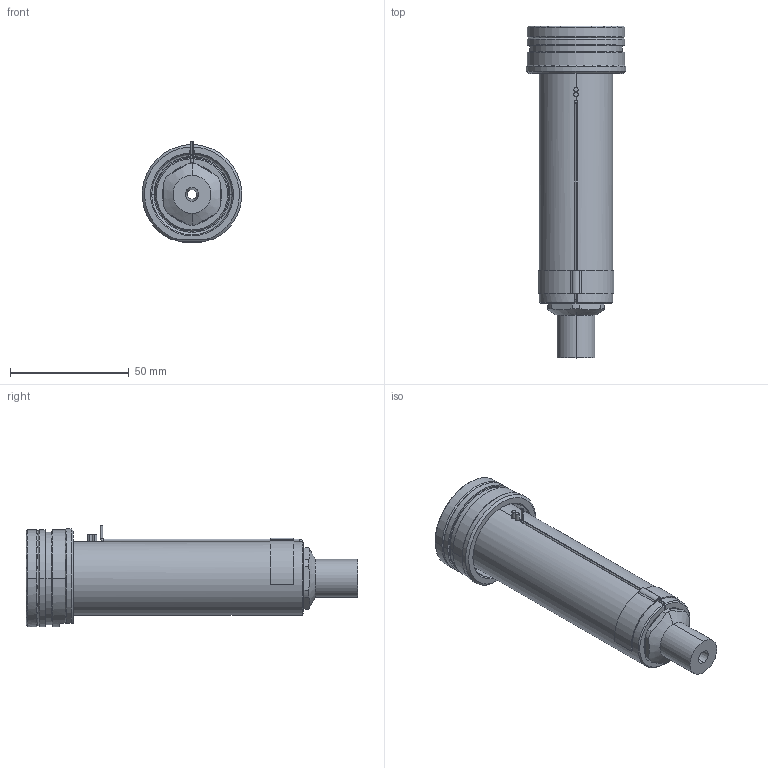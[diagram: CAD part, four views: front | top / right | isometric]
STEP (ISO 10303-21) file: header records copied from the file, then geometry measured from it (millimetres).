
FILE_DESCRIPTION((''),'2;1');
FILE_NAME('EO12_VG-FBE_STD_110_SW','2024-02-19T14:04:19',('sundharh'),(''),'CREO PARAMETRIC BY PTC INC, 2023154','CREO PARAMETRIC BY PTC INC, 2023154','');
FILE_SCHEMA(('CONFIG_CONTROL_DESIGN'));
Length unit declared in the file: millimetre
Products named in the file (1): EO12_VG-FBE_STD_110_SW
Bounding box: 41.85 x 140 x 43 mm (x, y, z)
Volume: 88864.4 mm3; surface area: 25979.4 mm2
Topology: 2 solids, 3 shells, 212 faces, 523 edges, 316 vertices
Faces by surface type: cylinder 73, plane 48, cone 43, torus 37, bspline 9, sphere 2
Entity records: 7137 total; most frequent: CARTESIAN_POINT 1994, DIRECTION 1152, ORIENTED_EDGE 1042, EDGE_CURVE 521, AXIS2_PLACEMENT_3D 487, VERTEX_POINT 316, CIRCLE 284, EDGE_LOOP 229
